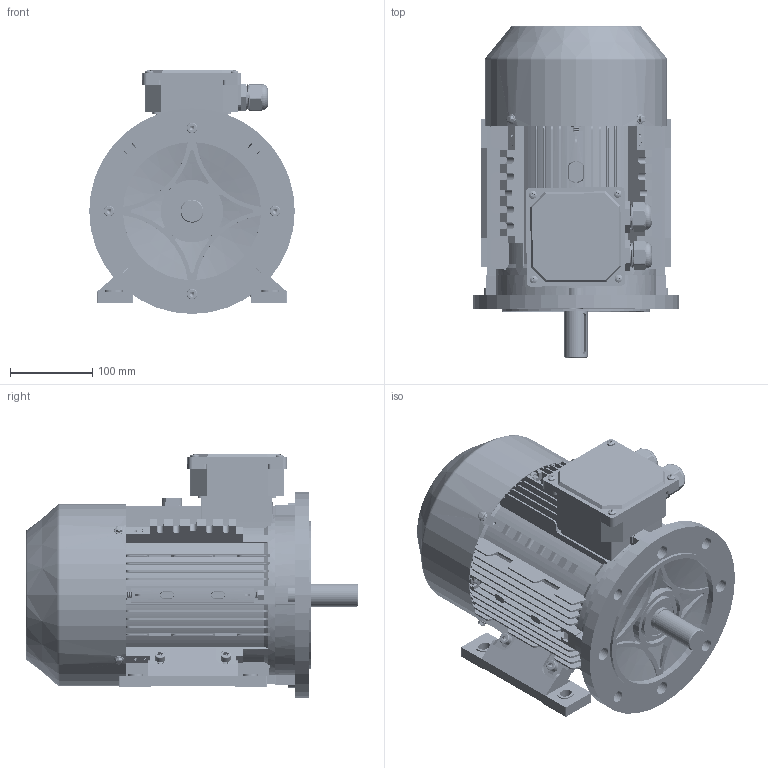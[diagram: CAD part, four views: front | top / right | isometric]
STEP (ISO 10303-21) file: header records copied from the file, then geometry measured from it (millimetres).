
FILE_DESCRIPTION (( 'STEP AP203' ), '1' );
FILE_NAME ('ME3-112B35 3D.STEP', '2024-07-12T07:16:44', ( 'User' ), ( 'China' ), 'SwSTEP 2.0', 'SolidWorks 2018', '' );
FILE_SCHEMA (( 'CONFIG_CONTROL_DESIGN' ));
Length unit declared in the file: millimetre
Products named in the file (19): cross recessed pan head screws gb_GB_CROSS_SCREWS_TYPE1 M5X8-8  H type-S; ME3-112 转轴（386）; hex flange bolts-heavy grade b gb_GB_FASTENER_BOLT_HFBB M5X10-S; MS112-132 諉盄碟釱; M24 蹟杶; hexagon socket head cap screws gb_GB_FASTENER_SCREWS_HSHCS M8X40-S; M24 蹟杶簸; hex nuts-style normal-grades ab gb_GB_HEXAGON_TYPE10 M8X1-S; MS112-132諉盄碟裔; spring lock washers--normal type gb_GB_FASTENER_WASHER_SW 8; ME3-112 儂褲; ME3-112B5傷裔; hexagon socket head cap screws gb_GB_FASTENER_SCREWS_HSHCS M8X30-S; ME3-112菁褐; ME3-112B35  3D; 蚐猾45X30X7; ME3-112B3傷裔; ME3-112瑞欶; deep groove ball bearings gb_Rolling bearings 6306 GB 276-94
Assembly tree (55 placements, depth 2):
  ME3-112B35  3D
    ME3-112 儂褲
    ME3-112菁褐  x2
    ME3-112B3傷裔
    deep groove ball bearings gb_Rolling bearings 6306 GB 276-94  x2
    ME3-112 转轴（386）
    MS112-132 諉盄碟釱
    hexagon socket head cap screws gb_GB_FASTENER_SCREWS_HSHCS M8X40-S  x8
    hex nuts-style normal-grades ab gb_GB_HEXAGON_TYPE10 M8X1-S  x11
    spring lock washers--normal type gb_GB_FASTENER_WASHER_SW 8  x4
    hexagon socket head cap screws gb_GB_FASTENER_SCREWS_HSHCS M8X30-S  x4
    蚐猾45X30X7
    ME3-112瑞欶
    cross recessed pan head screws gb_GB_CROSS_SCREWS_TYPE1 M5X8-8  H type-S  x8
    hex flange bolts-heavy grade b gb_GB_FASTENER_BOLT_HFBB M5X10-S  x4
    M24 蹟杶  x2
    M24 蹟杶簸  x2
    MS112-132諉盄碟裔
    ME3-112B5傷裔
Bounding box: 250 x 403.61 x 296.5 mm (x, y, z)
Volume: 2826274.5 mm3; surface area: 1376598.5 mm2
Topology: 55 solids, 56 shells, 8035 faces, 19281 edges, 11357 vertices
Faces by surface type: cone 3118, cylinder 2361, plane 2220, torus 220, sphere 72, bspline 44
Entity records: 125740 total; most frequent: CARTESIAN_POINT 32695, ORIENTED_EDGE 19302, DIRECTION 18304, EDGE_CURVE 9651, AXIS2_PLACEMENT_3D 6289, VERTEX_POINT 6155, LINE 5726, VECTOR 5726
